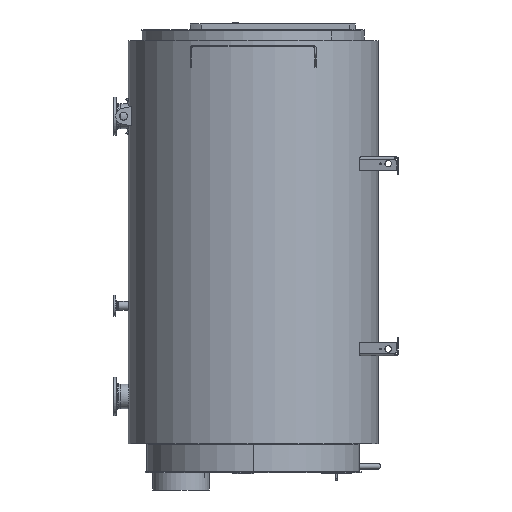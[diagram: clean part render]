
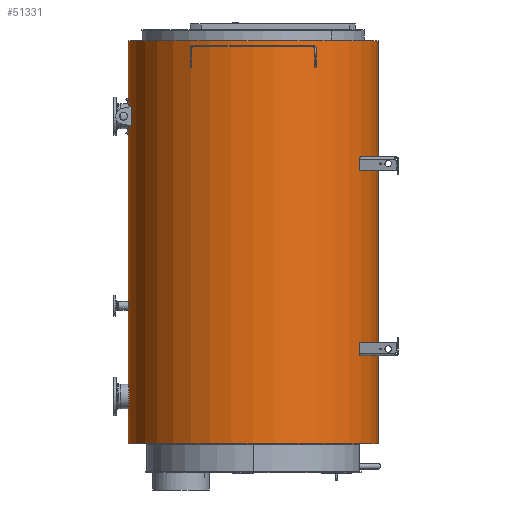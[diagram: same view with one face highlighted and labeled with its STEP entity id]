
A CAD part, left-side view. The second image highlights one B-rep face of the part: STEP entity #51331.
In plain terms, the highlighted cylindrical face has radius 1107.5 mm (diameter 2215 mm), a full revolution.
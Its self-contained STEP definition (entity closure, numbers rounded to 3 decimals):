
#51287=CARTESIAN_POINT('',(-1107.5,-0.,251.));
#51288=VERTEX_POINT('',#51287);
#51289=CARTESIAN_POINT('',(0.,0.,251.));
#51290=DIRECTION('',(-0.,-0.,1.));
#51291=DIRECTION('',(-1.,0.,0.));
#51292=AXIS2_PLACEMENT_3D('',#51289,#51290,#51291);
#51293=CIRCLE('',#51292,1107.5);
#51294=EDGE_CURVE('',#51288,#51288,#51293,.T.);
#51307=CARTESIAN_POINT('',(0.,0.,251.002));
#51308=DIRECTION('',(0.,0.,-1.));
#51309=DIRECTION('',(-1.,0.,0.));
#51310=AXIS2_PLACEMENT_3D('',#51307,#51308,#51309);
#51311=CYLINDRICAL_SURFACE('',#51310,1107.5);
#51312=CARTESIAN_POINT('',(-1107.5,-0.,-3324.));
#51313=VERTEX_POINT('',#51312);
#51314=CARTESIAN_POINT('',(-1107.5,0.,-3324.));
#51315=DIRECTION('',(-0.,-0.,1.));
#51316=VECTOR('',#51315,3575.);
#51317=LINE('',#51314,#51316);
#51318=EDGE_CURVE('',#51313,#51288,#51317,.T.);
#51319=ORIENTED_EDGE('',*,*,#51318,.T.);
#51320=ORIENTED_EDGE('',*,*,#51294,.F.);
#51321=ORIENTED_EDGE('',*,*,#51318,.F.);
#51322=CARTESIAN_POINT('',(0.,0.,-3324.));
#51323=DIRECTION('',(0.,0.,-1.));
#51324=DIRECTION('',(-1.,0.,0.));
#51325=AXIS2_PLACEMENT_3D('',#51322,#51323,#51324);
#51326=CIRCLE('',#51325,1107.5);
#51327=EDGE_CURVE('',#51313,#51313,#51326,.T.);
#51328=ORIENTED_EDGE('',*,*,#51327,.F.);
#51329=EDGE_LOOP('',(#51319,#51320,#51321,#51328));
#51330=FACE_BOUND('',#51329,.T.);
#51331=ADVANCED_FACE('',(#51330),#51311,.T.);
